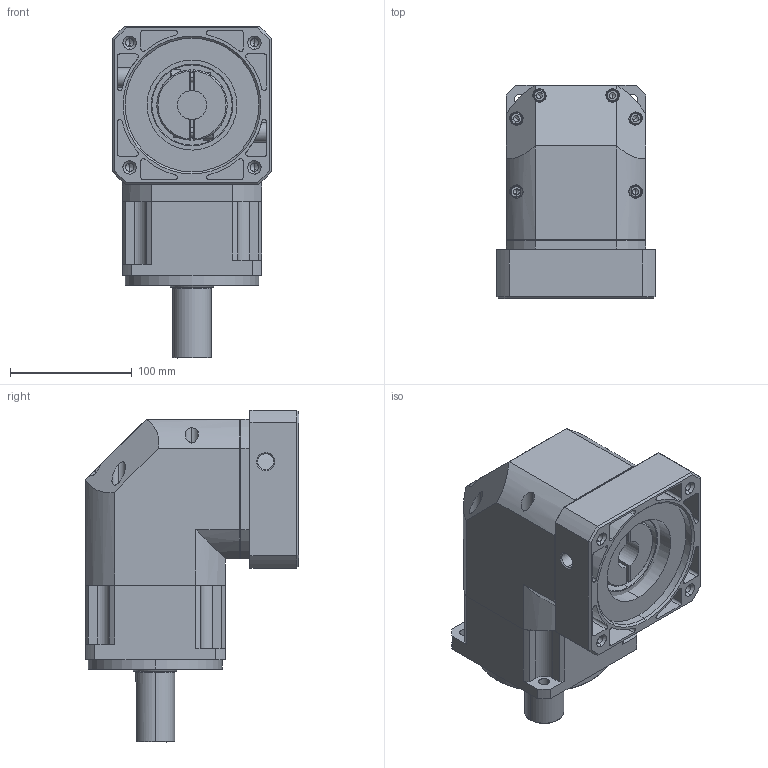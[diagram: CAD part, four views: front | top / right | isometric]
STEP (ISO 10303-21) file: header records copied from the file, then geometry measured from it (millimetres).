
FILE_DESCRIPTION (( 'STEP AP203' ), '1' );
FILE_NAME ('ABR-120-L1-24-110-145-M8.STEP', '2025-10-14T01:07:12', ( 'Microsoft' ), ( 'Microsoft' ), 'SwSTEP 2.0', 'SolidWorks 2016', '' );
FILE_SCHEMA (( 'CONFIG_CONTROL_DESIGN' ));
Length unit declared in the file: millimetre
Products named in the file (1): ABR-120-L1-24-110-145-M8
Bounding box: 130 x 175.5 x 273 mm (x, y, z)
Volume: 2965743.9 mm3; surface area: 325096.8 mm2
Topology: 19 solids, 19 shells, 826 faces, 1997 edges, 1239 vertices
Faces by surface type: plane 367, cylinder 294, cone 133, bspline 28, torus 4
Entity records: 29735 total; most frequent: CARTESIAN_POINT 10736, DIRECTION 3938, ORIENTED_EDGE 3878, EDGE_CURVE 1939, AXIS2_PLACEMENT_3D 1479, VERTEX_POINT 1239, VECTOR 980, LINE 980
